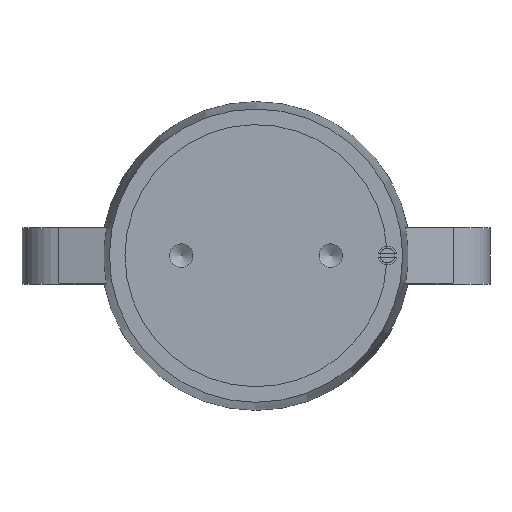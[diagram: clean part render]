
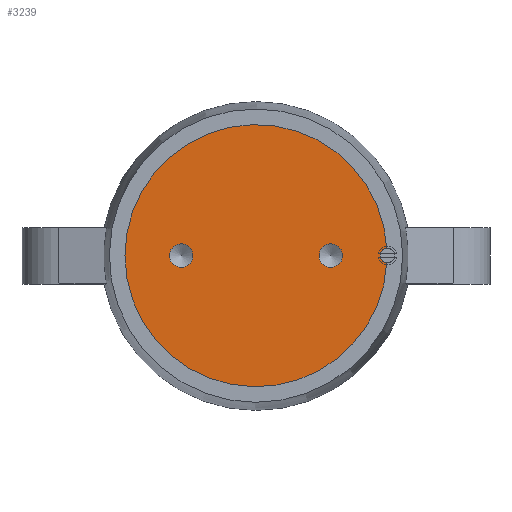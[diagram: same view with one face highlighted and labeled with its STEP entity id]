
A CAD part, top view. The second image highlights one B-rep face of the part: STEP entity #3239.
In plain terms, the highlighted planar face has unit normal (0, 0, 1).
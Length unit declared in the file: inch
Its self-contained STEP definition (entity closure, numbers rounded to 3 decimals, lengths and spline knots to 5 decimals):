
#347=PLANE('',#3536);
#438=FACE_BOUND('',#1107,.T.);
#439=FACE_BOUND('',#1108,.T.);
#851=FACE_OUTER_BOUND('',#1106,.T.);
#1106=EDGE_LOOP('',(#2527,#2528));
#1107=EDGE_LOOP('',(#2529));
#1108=EDGE_LOOP('',(#2530));
#1339=CIRCLE('',#3535,0.098);
#1340=CIRCLE('',#3537,1.75);
#1341=CIRCLE('',#3538,0.15745);
#1342=CIRCLE('',#3539,0.15745);
#1614=VERTEX_POINT('',#4995);
#1616=VERTEX_POINT('',#4999);
#1617=VERTEX_POINT('',#5004);
#1618=VERTEX_POINT('',#5006);
#1953=EDGE_CURVE('',#1614,#1616,#1339,.T.);
#1954=EDGE_CURVE('',#1616,#1614,#1340,.T.);
#1955=EDGE_CURVE('',#1617,#1617,#1341,.T.);
#1956=EDGE_CURVE('',#1618,#1618,#1342,.T.);
#2527=ORIENTED_EDGE('',*,*,#1953,.T.);
#2528=ORIENTED_EDGE('',*,*,#1954,.T.);
#2529=ORIENTED_EDGE('',*,*,#1955,.T.);
#2530=ORIENTED_EDGE('',*,*,#1956,.T.);
#3239=ADVANCED_FACE('',(#851,#438,#439),#347,.T.);
#3535=AXIS2_PLACEMENT_3D('',#5001,#4081,#4082);
#3536=AXIS2_PLACEMENT_3D('',#5002,#4083,#4084);
#3537=AXIS2_PLACEMENT_3D('',#5003,#4085,#4086);
#3538=AXIS2_PLACEMENT_3D('',#5005,#4087,#4088);
#3539=AXIS2_PLACEMENT_3D('',#5007,#4089,#4090);
#4081=DIRECTION('center_axis',(0.,0.,
-1.));
#4082=DIRECTION('ref_axis',(1.,0.,0.));
#4083=DIRECTION('center_axis',(0.,0.,
1.));
#4084=DIRECTION('ref_axis',(1.,0.,0.));
#4085=DIRECTION('center_axis',(0.,0.,
1.));
#4086=DIRECTION('ref_axis',(1.,0.,0.));
#4087=DIRECTION('center_axis',(0.,0.,
-1.));
#4088=DIRECTION('ref_axis',(1.,0.,0.));
#4089=DIRECTION('center_axis',(0.,0.,
-1.));
#4090=DIRECTION('ref_axis',(1.,0.,0.));
#4995=CARTESIAN_POINT('',(1.74743,-0.09477,7.));
#4999=CARTESIAN_POINT('',(1.74711,0.10049,7.));
#5001=CARTESIAN_POINT('Origin',(1.75577,0.00288,7.));
#5002=CARTESIAN_POINT('Origin',(0.875,0.,
7.));
#5003=CARTESIAN_POINT('Origin',(0.,0.,
7.));
#5004=CARTESIAN_POINT('',(-0.84255,0.,7.));
#5005=CARTESIAN_POINT('Origin',(-1.,0.,
7.));
#5006=CARTESIAN_POINT('',(1.15745,0.,7.));
#5007=CARTESIAN_POINT('Origin',(1.,0.,
7.));
